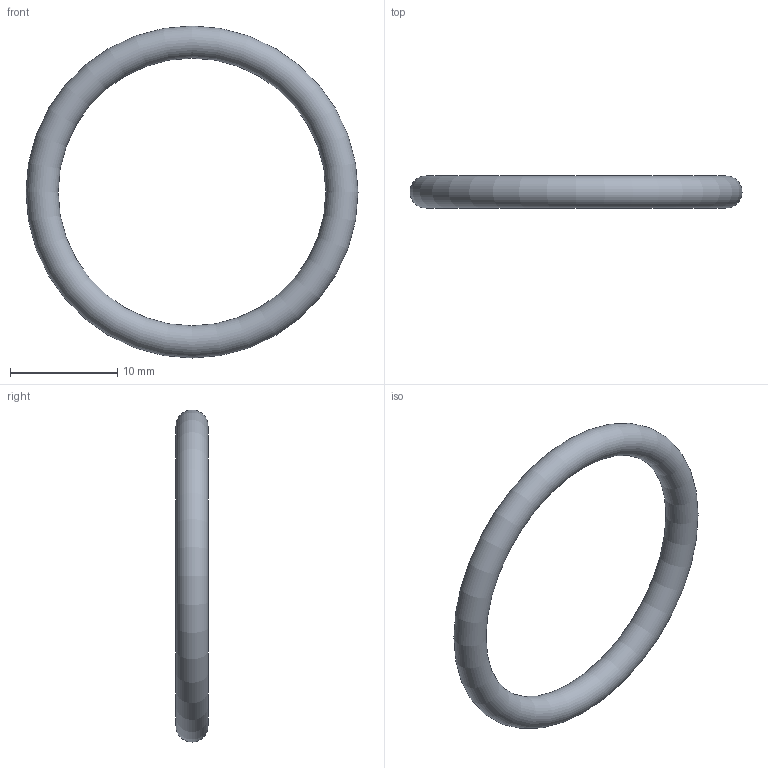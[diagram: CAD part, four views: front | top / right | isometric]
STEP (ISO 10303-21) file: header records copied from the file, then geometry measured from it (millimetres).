
FILE_DESCRIPTION( ( 'STEP AP203' ), '1' );
FILE_NAME( 'C:/Temp/Ganter_Step_05_03_2020/data/3_5/or638/O-Ring OR638-25.00-3.00-70.stp', '2020-03-12T13:44:30', ( 'License CC BY-ND 4.0' ), ( 'CADENAS' ), ' ', 'PARTsolutions', ' ' );
FILE_SCHEMA( ( 'CONFIG_CONTROL_DESIGN' ) );
Length unit declared in the file: millimetre
Products named in the file (1): _O-Ring OR638-25.00-3.00-70
Bounding box: 31 x 3 x 31 mm (x, y, z)
Volume: 621.8 mm3; surface area: 829 mm2
Topology: 1 solids, 1 shells, 1 faces, 2 edges, 1 vertices
Faces by surface type: torus 1
Entity records: 62 total; most frequent: CC_DESIGN_PERSON_AND_ORGANIZATION_ASSIGNMENT 5, PERSON_AND_ORGANIZATION_ROLE 4, DIRECTION 4, CARTESIAN_POINT 3, DATE_TIME_ROLE 2, CC_DESIGN_DATE_AND_TIME_ASSIGNMENT 2, AXIS2_PLACEMENT_3D 2, DIMENSIONAL_EXPONENTS 2
